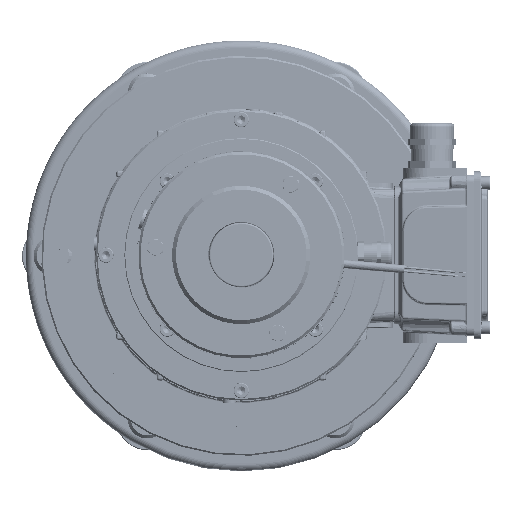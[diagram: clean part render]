
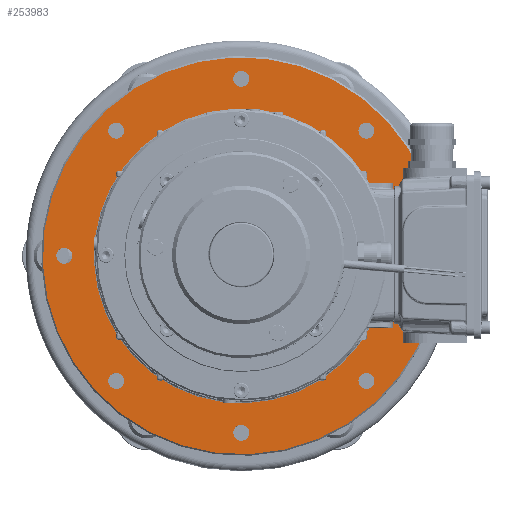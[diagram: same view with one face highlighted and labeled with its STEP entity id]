
A CAD part, top view. The second image highlights one B-rep face of the part: STEP entity #253983.
In plain terms, the highlighted planar face has unit normal (0, 0, 1).
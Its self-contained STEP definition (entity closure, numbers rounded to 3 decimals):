
#8524=PLANE('',#275227);
#59597=FACE_BOUND('',#85652,.T.);
#59598=FACE_BOUND('',#85653,.T.);
#59599=FACE_BOUND('',#85654,.T.);
#59600=FACE_BOUND('',#85655,.T.);
#59601=FACE_BOUND('',#85656,.T.);
#59602=FACE_BOUND('',#85657,.T.);
#59603=FACE_BOUND('',#85658,.T.);
#59604=FACE_BOUND('',#85659,.T.);
#59605=FACE_BOUND('',#85660,.T.);
#70585=FACE_OUTER_BOUND('',#85651,.T.);
#85651=EDGE_LOOP('',(#212692));
#85652=EDGE_LOOP('',(#212693));
#85653=EDGE_LOOP('',(#212694));
#85654=EDGE_LOOP('',(#212695));
#85655=EDGE_LOOP('',(#212696));
#85656=EDGE_LOOP('',(#212697));
#85657=EDGE_LOOP('',(#212698));
#85658=EDGE_LOOP('',(#212699));
#85659=EDGE_LOOP('',(#212700));
#85660=EDGE_LOOP('',(#212701));
#96868=CIRCLE('',#275137,129.);
#96892=CIRCLE('',#275169,95.8);
#96893=CIRCLE('',#275171,5.188);
#96895=CIRCLE('',#275174,5.188);
#96897=CIRCLE('',#275177,5.188);
#96899=CIRCLE('',#275180,5.188);
#96901=CIRCLE('',#275183,5.188);
#96903=CIRCLE('',#275186,5.188);
#96905=CIRCLE('',#275189,5.188);
#96907=CIRCLE('',#275192,5.188);
#117653=VERTEX_POINT('',#551453);
#117672=VERTEX_POINT('',#551507);
#117673=VERTEX_POINT('',#551511);
#117675=VERTEX_POINT('',#551517);
#117677=VERTEX_POINT('',#551523);
#117679=VERTEX_POINT('',#551529);
#117681=VERTEX_POINT('',#551535);
#117683=VERTEX_POINT('',#551541);
#117685=VERTEX_POINT('',#551547);
#117687=VERTEX_POINT('',#551553);
#150348=EDGE_CURVE('',#117653,#117653,#96868,.T.);
#150375=EDGE_CURVE('',#117672,#117672,#96892,.T.);
#150376=EDGE_CURVE('',#117673,#117673,#96893,.T.);
#150379=EDGE_CURVE('',#117675,#117675,#96895,.T.);
#150382=EDGE_CURVE('',#117677,#117677,#96897,.T.);
#150385=EDGE_CURVE('',#117679,#117679,#96899,.T.);
#150388=EDGE_CURVE('',#117681,#117681,#96901,.T.);
#150391=EDGE_CURVE('',#117683,#117683,#96903,.T.);
#150394=EDGE_CURVE('',#117685,#117685,#96905,.T.);
#150397=EDGE_CURVE('',#117687,#117687,#96907,.T.);
#212692=ORIENTED_EDGE('',*,*,#150348,.T.);
#212693=ORIENTED_EDGE('',*,*,#150397,.T.);
#212694=ORIENTED_EDGE('',*,*,#150394,.T.);
#212695=ORIENTED_EDGE('',*,*,#150391,.T.);
#212696=ORIENTED_EDGE('',*,*,#150388,.T.);
#212697=ORIENTED_EDGE('',*,*,#150385,.T.);
#212698=ORIENTED_EDGE('',*,*,#150382,.T.);
#212699=ORIENTED_EDGE('',*,*,#150379,.T.);
#212700=ORIENTED_EDGE('',*,*,#150376,.T.);
#212701=ORIENTED_EDGE('',*,*,#150375,.T.);
#253983=ADVANCED_FACE('',(#70585,#59597,#59598,#59599,#59600,#59601,#59602,
#59603,#59604,#59605),#8524,.T.);
#275137=AXIS2_PLACEMENT_3D('',#551455,#331938,#331939);
#275169=AXIS2_PLACEMENT_3D('',#551509,#332005,#332006);
#275171=AXIS2_PLACEMENT_3D('',#551512,#332009,#332010);
#275174=AXIS2_PLACEMENT_3D('',#551518,#332016,#332017);
#275177=AXIS2_PLACEMENT_3D('',#551524,#332023,#332024);
#275180=AXIS2_PLACEMENT_3D('',#551530,#332030,#332031);
#275183=AXIS2_PLACEMENT_3D('',#551536,#332037,#332038);
#275186=AXIS2_PLACEMENT_3D('',#551542,#332044,#332045);
#275189=AXIS2_PLACEMENT_3D('',#551548,#332051,#332052);
#275192=AXIS2_PLACEMENT_3D('',#551554,#332058,#332059);
#275227=AXIS2_PLACEMENT_3D('',#551610,#332136,#332137);
#331938=DIRECTION('center_axis',(0.,0.,
1.));
#331939=DIRECTION('ref_axis',(-0.383,0.924,0.));
#332005=DIRECTION('center_axis',(0.,0.,
-1.));
#332006=DIRECTION('ref_axis',(-0.383,0.924,0.));
#332009=DIRECTION('center_axis',(0.,0.,
-1.));
#332010=DIRECTION('ref_axis',(0.924,-0.383,0.));
#332016=DIRECTION('center_axis',(0.,0.,
-1.));
#332017=DIRECTION('ref_axis',(0.924,0.383,0.));
#332023=DIRECTION('center_axis',(0.,0.,
-1.));
#332024=DIRECTION('ref_axis',(0.383,0.924,0.));
#332030=DIRECTION('center_axis',(0.,0.,
-1.));
#332031=DIRECTION('ref_axis',(-0.383,0.924,0.));
#332037=DIRECTION('center_axis',(0.,0.,
-1.));
#332038=DIRECTION('ref_axis',(-0.924,0.383,0.));
#332044=DIRECTION('center_axis',(0.,0.,
-1.));
#332045=DIRECTION('ref_axis',(-0.924,-0.383,0.));
#332051=DIRECTION('center_axis',(0.,0.,
-1.));
#332052=DIRECTION('ref_axis',(-0.383,-0.924,0.));
#332058=DIRECTION('center_axis',(0.,0.,
-1.));
#332059=DIRECTION('ref_axis',(0.383,-0.924,0.));
#332136=DIRECTION('center_axis',(0.,0.,
1.));
#332137=DIRECTION('ref_axis',(-0.383,0.924,0.));
#551453=CARTESIAN_POINT('',(-49.366,119.18,-52.5));
#551455=CARTESIAN_POINT('Origin',(0.,0.,
-52.5));
#551507=CARTESIAN_POINT('',(36.661,-88.508,-52.5));
#551509=CARTESIAN_POINT('Origin',(0.,0.,
-52.5));
#551511=CARTESIAN_POINT('',(-86.11,-79.332,-52.5));
#551512=CARTESIAN_POINT('Origin',(-81.317,-81.317,-52.5));
#551517=CARTESIAN_POINT('',(-4.793,-116.985,-52.5));
#551518=CARTESIAN_POINT('Origin',(0.,-115.,-52.5));
#551523=CARTESIAN_POINT('',(79.332,-86.11,-52.5));
#551524=CARTESIAN_POINT('Origin',(81.317,-81.317,-52.5));
#551529=CARTESIAN_POINT('',(116.985,-4.793,-52.5));
#551530=CARTESIAN_POINT('Origin',(115.,0.,-52.5));
#551535=CARTESIAN_POINT('',(86.11,79.332,-52.5));
#551536=CARTESIAN_POINT('Origin',(81.317,81.317,-52.5));
#551541=CARTESIAN_POINT('',(4.793,116.985,-52.5));
#551542=CARTESIAN_POINT('Origin',(0.,115.,-52.5));
#551547=CARTESIAN_POINT('',(-79.332,86.11,-52.5));
#551548=CARTESIAN_POINT('Origin',(-81.317,81.317,-52.5));
#551553=CARTESIAN_POINT('',(-116.985,4.793,-52.5));
#551554=CARTESIAN_POINT('Origin',(-115.,0.,-52.5));
#551610=CARTESIAN_POINT('Origin',(-87.769,-36.355,-52.5));
